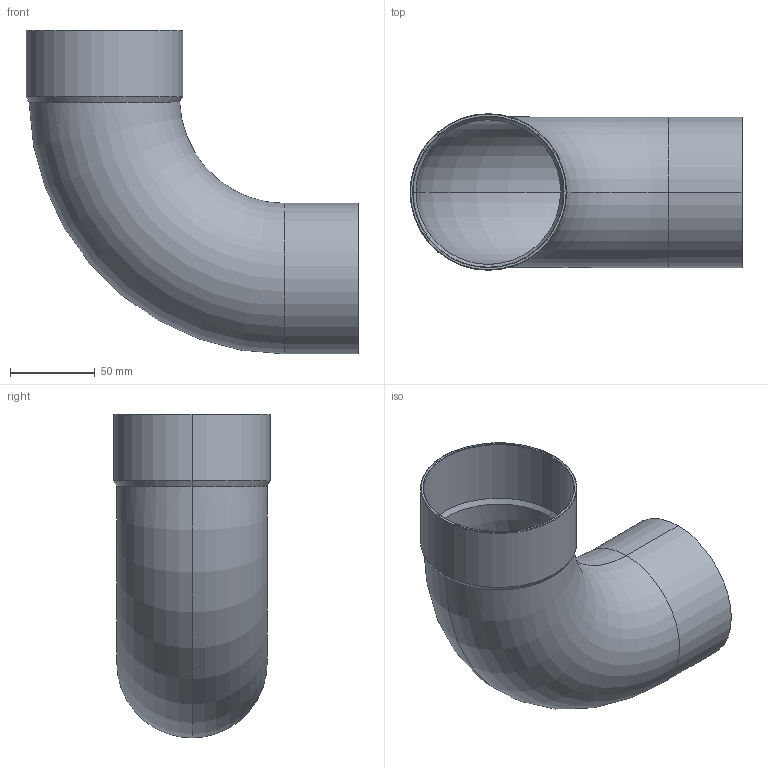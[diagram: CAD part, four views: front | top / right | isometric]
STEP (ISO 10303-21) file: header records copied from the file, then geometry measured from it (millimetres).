
FILE_DESCRIPTION((''),'2;1');
FILE_NAME('P:\Bouwmaten\z-maattekeningen 3D\5000\5001a\15001a89.stp','2005-10-04T15:04:56',('Kris'),(''),'Autodesk Inventor 8','Autodesk Inventor 8','');
FILE_SCHEMA(('AUTOMOTIVE_DESIGN { 1 0 10303 214 1 1 1 1 }'));
Length unit declared in the file: millimetre
Products named in the file (1): 15001a89
Bounding box: 196.3 x 92.6 x 191.5 mm (x, y, z)
Volume: 124895.6 mm3; surface area: 139707.7 mm2
Topology: 1 solids, 1 shells, 22 faces, 46 edges, 26 vertices
Faces by surface type: cone 8, cylinder 8, torus 4, plane 2
Entity records: 679 total; most frequent: CARTESIAN_POINT 171, DIRECTION 114, ORIENTED_EDGE 92, AXIS2_PLACEMENT_3D 49, EDGE_CURVE 46, VERTEX_POINT 26, CIRCLE 26, EDGE_LOOP 24
